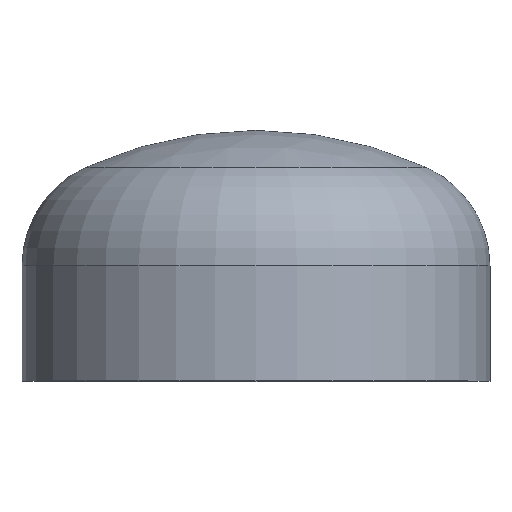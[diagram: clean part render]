
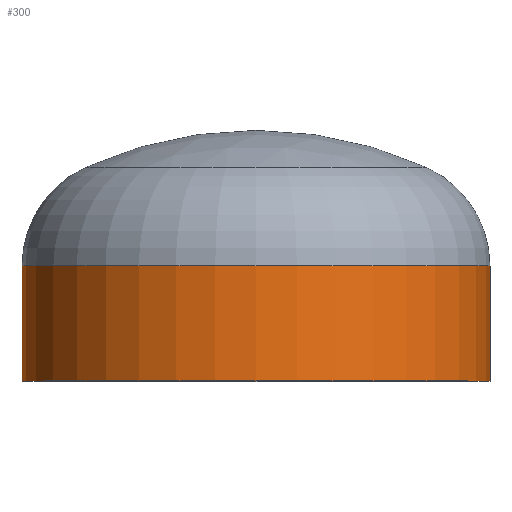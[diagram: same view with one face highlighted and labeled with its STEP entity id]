
A CAD part, top view. The second image highlights one B-rep face of the part: STEP entity #300.
In plain terms, the highlighted cylindrical face has radius 203.2 mm (diameter 406.4 mm), a partial arc.
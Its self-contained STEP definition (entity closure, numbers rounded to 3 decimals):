
#18 = AXIS2_PLACEMENT_3D ( 'NONE', #379, #236, #406 ) ;
#25 = AXIS2_PLACEMENT_3D ( 'NONE', #358, #259, #188 ) ;
#42 = CARTESIAN_POINT ( 'NONE',  ( -203.2, 0., 0. ) ) ;
#44 = ORIENTED_EDGE ( 'NONE', *, *, #233, .T. ) ;
#64 = AXIS2_PLACEMENT_3D ( 'NONE', #322, #178, #348 ) ;
#70 = ORIENTED_EDGE ( 'NONE', *, *, #383, .F. ) ;
#75 = EDGE_CURVE ( 'NONE', #119, #136, #116, .T. ) ;
#91 = ORIENTED_EDGE ( 'NONE', *, *, #75, .F. ) ;
#101 = EDGE_LOOP ( 'NONE', ( #135, #44, #91, #70 ) ) ;
#107 = LINE ( 'NONE', #380, #320 ) ;
#116 = CIRCLE ( 'NONE', #64, 203.2 ) ;
#119 = VERTEX_POINT ( 'NONE', #254 ) ;
#135 = ORIENTED_EDGE ( 'NONE', *, *, #344, .T. ) ;
#136 = VERTEX_POINT ( 'NONE', #42 ) ;
#138 = CYLINDRICAL_SURFACE ( 'NONE', #25, 203.2 ) ;
#145 = VERTEX_POINT ( 'NONE', #397 ) ;
#149 = FACE_OUTER_BOUND ( 'NONE', #101, .T. ) ;
#155 = VERTEX_POINT ( 'NONE', #353 ) ;
#175 = LINE ( 'NONE', #232, #302 ) ;
#178 = DIRECTION ( 'NONE',  ( 0., -1., 0. ) ) ;
#188 = DIRECTION ( 'NONE',  ( 1., 0., 0. ) ) ;
#232 = CARTESIAN_POINT ( 'NONE',  ( -203.2, 0., 0. ) ) ;
#233 = EDGE_CURVE ( 'NONE', #155, #136, #175, .T. ) ;
#236 = DIRECTION ( 'NONE',  ( 0., -1., 0. ) ) ;
#239 = DIRECTION ( 'NONE',  ( 0., -1., 0. ) ) ;
#254 = CARTESIAN_POINT ( 'NONE',  ( 203.2, 0., 0. ) ) ;
#259 = DIRECTION ( 'NONE',  ( 0., -1., 0. ) ) ;
#275 = CIRCLE ( 'NONE', #18, 203.2 ) ;
#300 = ADVANCED_FACE ( 'NONE', ( #149 ), #138, .T. ) ;
#302 = VECTOR ( 'NONE', #400, 1000. ) ;
#320 = VECTOR ( 'NONE', #239, 1000. ) ;
#322 = CARTESIAN_POINT ( 'NONE',  ( 0., 0., 0. ) ) ;
#344 = EDGE_CURVE ( 'NONE', #145, #155, #275, .T. ) ;
#348 = DIRECTION ( 'NONE',  ( 1., 0., 0. ) ) ;
#353 = CARTESIAN_POINT ( 'NONE',  ( -203.2, 100., 0. ) ) ;
#358 = CARTESIAN_POINT ( 'NONE',  ( 0., 0., 0. ) ) ;
#379 = CARTESIAN_POINT ( 'NONE',  ( 0., 100., 0. ) ) ;
#380 = CARTESIAN_POINT ( 'NONE',  ( 203.2, 0., 0. ) ) ;
#383 = EDGE_CURVE ( 'NONE', #145, #119, #107, .T. ) ;
#397 = CARTESIAN_POINT ( 'NONE',  ( 203.2, 100., 0. ) ) ;
#400 = DIRECTION ( 'NONE',  ( 0., -1., 0. ) ) ;
#406 = DIRECTION ( 'NONE',  ( 1., 0., 0. ) ) ;
